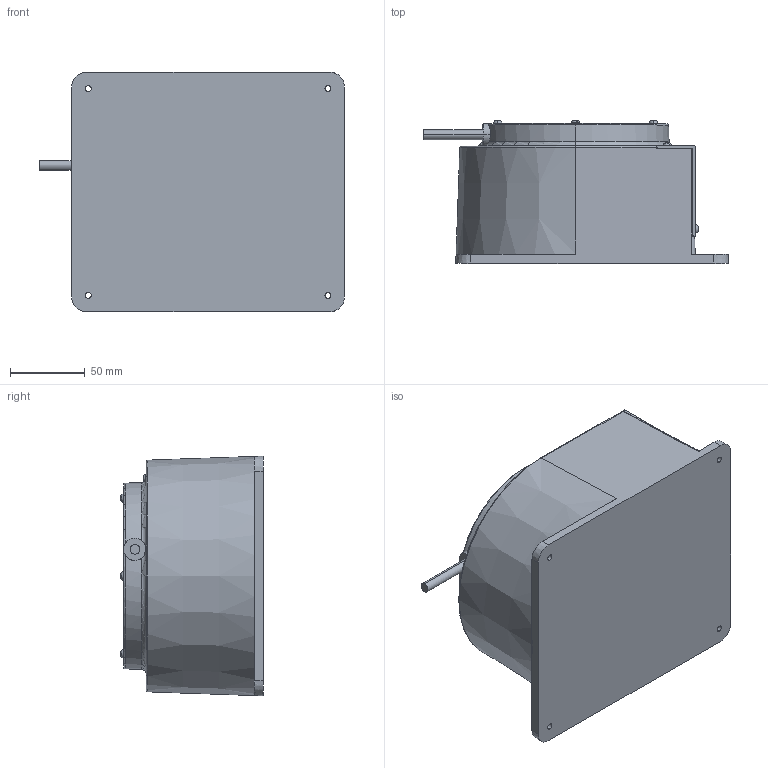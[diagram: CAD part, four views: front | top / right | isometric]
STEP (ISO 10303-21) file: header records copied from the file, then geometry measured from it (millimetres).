
FILE_DESCRIPTION (( 'STEP AP214' ), '1' );
FILE_NAME ('DL-10_Assem0.STEP', '2024-07-18T05:37:23', ( '' ), ( '' ), 'SwSTEP 2.0', 'SolidWorks 2023', '' );
FILE_SCHEMA (( 'AUTOMOTIVE_DESIGN' ));
Length unit declared in the file: millimetre
Products named in the file (4): SCREW M3 X6 MM; DL-10_Assem0; DL-10_Part2; DL-10_Part1
Assembly tree (8 placements, depth 2):
  DL-10_Assem0
    DL-10_Part1
    DL-10_Part2
    SCREW M3 X6 MM  x6
Bounding box: 203.5 x 95.2 x 160 mm (x, y, z)
Volume: 1948017.9 mm3; surface area: 113365.4 mm2
Topology: 8 solids, 8 shells, 231 faces, 673 edges, 469 vertices
Faces by surface type: plane 104, cylinder 51, cone 34, bspline 25, torus 17
Entity records: 4608 total; most frequent: CARTESIAN_POINT 1450, DIRECTION 655, ORIENTED_EDGE 624, EDGE_CURVE 312, AXIS2_PLACEMENT_3D 252, VERTEX_POINT 209, VECTOR 151, LINE 151
